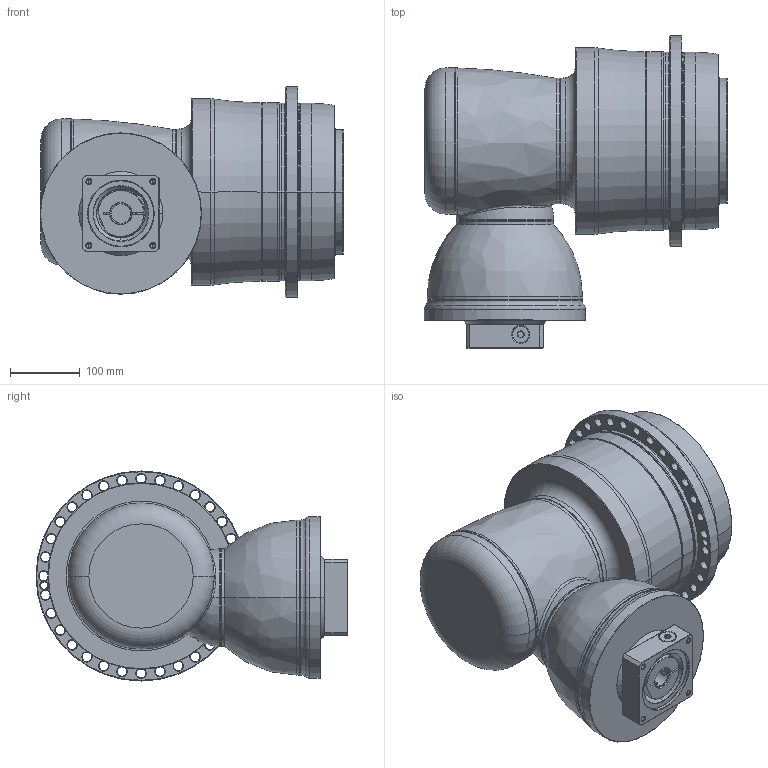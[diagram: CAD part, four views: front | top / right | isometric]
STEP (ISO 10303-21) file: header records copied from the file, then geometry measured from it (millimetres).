
FILE_DESCRIPTION((''),'2;1');
FILE_NAME('APK255_3ST_28-P0409610201_ASM','2018-07-26T',('D00080'),(''),'PRO/ENGINEER BY PARAMETRIC TECHNOLOGY CORPORATION, 2008170','PRO/ENGINEER BY PARAMETRIC TECHNOLOGY CORPORATION, 2008170','');
FILE_SCHEMA(('CONFIG_CONTROL_DESIGN'));
Length unit declared in the file: millimetre
Products named in the file (13): P1008600002; P1832700001; P0278701003; P0359701103; P1211700001; P1315600001; P1007601001; P1318610501; P0503600010; P0129655001; P0409610201; 21711418017; APK255_3ST_28-P0409610201_ASM
Assembly tree (12 placements, depth 2):
  APK255_3ST_28-P0409610201_ASM
    P1008600002
    P1832700001
    P0278701003
    P0359701103
    P1211700001
    P1315600001
    P1007601001
    P1318610501
    P0503600010
    P0129655001
    P0409610201
    21711418017
Bounding box: 436.5 x 448.5 x 302 mm (x, y, z)
Volume: 22445221.1 mm3; surface area: 1381280.3 mm2
Topology: 13 solids, 36 shells, 804 faces, 1878 edges, 1123 vertices
Faces by surface type: cylinder 312, cone 259, plane 123, torus 81, bspline 27, sphere 2
Entity records: 26215 total; most frequent: CARTESIAN_POINT 7108, DIRECTION 4412, ORIENTED_EDGE 3586, AXIS2_PLACEMENT_3D 1889, EDGE_CURVE 1840, VERTEX_POINT 1123, CIRCLE 1075, EDGE_LOOP 947
